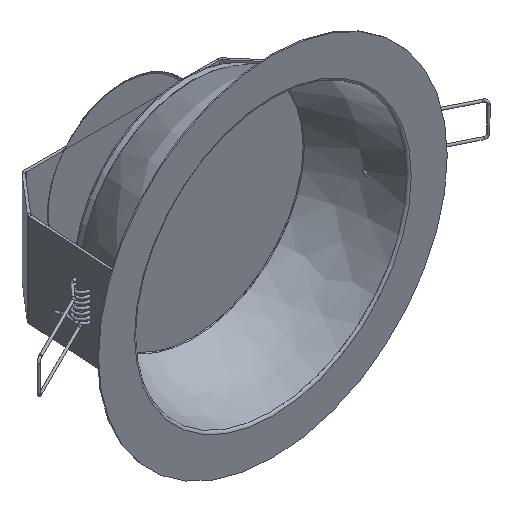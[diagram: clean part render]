
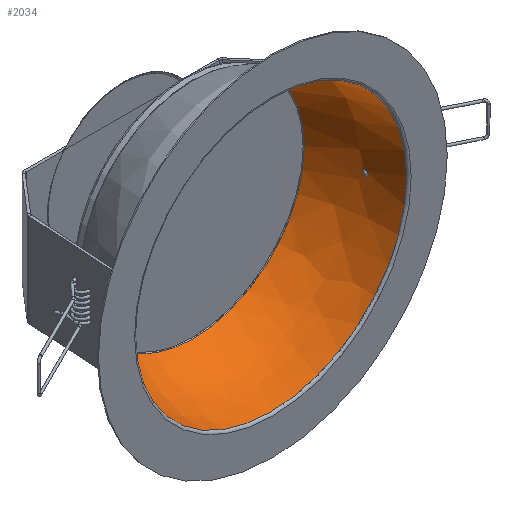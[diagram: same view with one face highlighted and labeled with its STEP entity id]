
A CAD part, isometric view. The second image highlights one B-rep face of the part: STEP entity #2034.
In plain terms, the highlighted free-form (B-spline) face has degree [2, 2] with [3, 9] control points.
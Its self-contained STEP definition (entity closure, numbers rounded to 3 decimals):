
#77=FACE_BOUND('',#559,.T.);
#228=CIRCLE('',#2208,47.779);
#230=CIRCLE('',#2210,60.);
#231=CIRCLE('',#2211,58.492);
#245=(
BOUNDED_SURFACE()
B_SPLINE_SURFACE(2,2,((#9001,#9002,#9003,#9004,#9005,#9006,#9007,#9008,
#9009),(#9010,#9011,#9012,#9013,#9014,#9015,#9016,#9017,#9018),(#9019,#9020,
#9021,#9022,#9023,#9024,#9025,#9026,#9027)),.UNSPECIFIED.,.F.,.T.,.F.)
B_SPLINE_SURFACE_WITH_KNOTS((3,3),(3,2,2,2,3),(0.016,0.607),
(-3.142,-1.571,0.,1.571,3.142),
 .UNSPECIFIED.)
GEOMETRIC_REPRESENTATION_ITEM()
RATIONAL_B_SPLINE_SURFACE(((1.,0.707,1.,0.707,1.,
0.707,1.,0.707,1.),(0.957,0.676,
0.957,0.676,0.957,0.676,
0.957,0.676,0.957),(1.,0.707,
1.,0.707,1.,0.707,1.,0.707,1.)))
REPRESENTATION_ITEM('')
SURFACE()
);
#370=FACE_OUTER_BOUND('',#558,.T.);
#558=EDGE_LOOP('',(#1857,#1858,#1859,#1860));
#559=EDGE_LOOP('',(#1861,#1862));
#739=B_SPLINE_CURVE_WITH_KNOTS('',3,(#2897,#2898,#2899,#2900,#2901,#2902,
#2903,#2904,#2905,#2906,#2907,#2908,#2909,#2910,#2911,#2912,#2913,#2914,
#2915,#2916,#2917,#2918,#2919,#2920,#2921,#2922),.UNSPECIFIED.,.F.,.F.,
(4,2,2,2,2,2,2,2,2,2,2,2,4),(-0.256,-0.239,-0.213,
-0.183,-0.159,-0.143,-0.127,
-0.111,-0.089,-0.065,-0.043,
-0.023,-0.018),.UNSPECIFIED.);
#793=B_SPLINE_CURVE_WITH_KNOTS('',3,(#5666,#5667,#5668,#5669,#5670,#5671,
#5672,#5673,#5674,#5675,#5676,#5677,#5678,#5679,#5680,#5681,#5682,#5683,
#5684,#5685),.UNSPECIFIED.,.F.,.F.,(4,2,2,2,2,2,2,2,2,4),(0.03,
0.043,0.076,0.104,0.129,
0.151,0.173,0.199,0.231,
0.265),.UNSPECIFIED.);
#857=VERTEX_POINT('',#2894);
#858=VERTEX_POINT('',#2896);
#1014=VERTEX_POINT('',#8998);
#1015=VERTEX_POINT('',#9028);
#1026=EDGE_CURVE('',#858,#857,#739,.T.);
#1099=EDGE_CURVE('',#857,#858,#793,.T.);
#1295=EDGE_CURVE('',#1014,#1014,#228,.T.);
#1297=EDGE_CURVE('',#1014,#1015,#230,.T.);
#1298=EDGE_CURVE('',#1015,#1015,#231,.T.);
#1857=ORIENTED_EDGE('',*,*,#1295,.T.);
#1858=ORIENTED_EDGE('',*,*,#1297,.T.);
#1859=ORIENTED_EDGE('',*,*,#1298,.F.);
#1860=ORIENTED_EDGE('',*,*,#1297,.F.);
#1861=ORIENTED_EDGE('',*,*,#1026,.T.);
#1862=ORIENTED_EDGE('',*,*,#1099,.T.);
#2034=ADVANCED_FACE('',(#370,#77),#245,.T.);
#2208=AXIS2_PLACEMENT_3D('',#8999,#2600,#2601);
#2210=AXIS2_PLACEMENT_3D('',#9029,#2604,#2605);
#2211=AXIS2_PLACEMENT_3D('',#9030,#2606,#2607);
#2600=DIRECTION('center_axis',(0.,1.,0.));
#2601=DIRECTION('ref_axis',(0.866,0.,-0.5));
#2604=DIRECTION('center_axis',(-0.866,0.,0.5));
#2605=DIRECTION('ref_axis',(-0.5,0.,-0.866));
#2606=DIRECTION('center_axis',(0.,1.,0.));
#2607=DIRECTION('ref_axis',(0.866,0.,-0.5));
#2894=CARTESIAN_POINT('',(55.93,-48.87,-5.007));
#2896=CARTESIAN_POINT('',(56.023,-48.916,-4.023));
#2897=CARTESIAN_POINT('Ctrl Pts',(56.023,-48.916,-4.023));
#2898=CARTESIAN_POINT('Ctrl Pts',(56.037,-48.965,-4.021));
#2899=CARTESIAN_POINT('Ctrl Pts',(56.051,-49.015,-4.024));
#2900=CARTESIAN_POINT('Ctrl Pts',(56.085,-49.137,-4.039));
#2901=CARTESIAN_POINT('Ctrl Pts',(56.104,-49.21,-4.055));
#2902=CARTESIAN_POINT('Ctrl Pts',(56.143,-49.361,-4.109));
#2903=CARTESIAN_POINT('Ctrl Pts',(56.162,-49.439,-4.149));
#2904=CARTESIAN_POINT('Ctrl Pts',(56.188,-49.56,-4.242));
#2905=CARTESIAN_POINT('Ctrl Pts',(56.198,-49.608,-4.29));
#2906=CARTESIAN_POINT('Ctrl Pts',(56.207,-49.67,-4.387));
#2907=CARTESIAN_POINT('Ctrl Pts',(56.209,-49.69,-4.432));
#2908=CARTESIAN_POINT('Ctrl Pts',(56.208,-49.711,-4.523));
#2909=CARTESIAN_POINT('Ctrl Pts',(56.205,-49.713,-4.567));
#2910=CARTESIAN_POINT('Ctrl Pts',(56.194,-49.699,-4.657));
#2911=CARTESIAN_POINT('Ctrl Pts',(56.185,-49.682,-4.702));
#2912=CARTESIAN_POINT('Ctrl Pts',(56.162,-49.627,-4.794));
#2913=CARTESIAN_POINT('Ctrl Pts',(56.146,-49.583,-4.841));
#2914=CARTESIAN_POINT('Ctrl Pts',(56.106,-49.465,-4.927));
#2915=CARTESIAN_POINT('Ctrl Pts',(56.083,-49.393,-4.96));
#2916=CARTESIAN_POINT('Ctrl Pts',(56.04,-49.253,-5.003));
#2917=CARTESIAN_POINT('Ctrl Pts',(56.019,-49.184,-5.015));
#2918=CARTESIAN_POINT('Ctrl Pts',(55.98,-49.048,-5.025));
#2919=CARTESIAN_POINT('Ctrl Pts',(55.961,-48.981,-5.023));
#2920=CARTESIAN_POINT('Ctrl Pts',(55.938,-48.899,-5.012));
#2921=CARTESIAN_POINT('Ctrl Pts',(55.934,-48.885,-5.01));
#2922=CARTESIAN_POINT('Ctrl Pts',(55.93,-48.87,-5.007));
#5666=CARTESIAN_POINT('Ctrl Pts',(55.93,-48.87,-5.007));
#5667=CARTESIAN_POINT('Ctrl Pts',(55.919,-48.831,-5.001));
#5668=CARTESIAN_POINT('Ctrl Pts',(55.909,-48.793,-4.992));
#5669=CARTESIAN_POINT('Ctrl Pts',(55.874,-48.661,-4.951));
#5670=CARTESIAN_POINT('Ctrl Pts',(55.854,-48.579,-4.909));
#5671=CARTESIAN_POINT('Ctrl Pts',(55.826,-48.455,-4.81));
#5672=CARTESIAN_POINT('Ctrl Pts',(55.817,-48.41,-4.759));
#5673=CARTESIAN_POINT('Ctrl Pts',(55.808,-48.35,-4.655));
#5674=CARTESIAN_POINT('Ctrl Pts',(55.806,-48.331,-4.603));
#5675=CARTESIAN_POINT('Ctrl Pts',(55.81,-48.315,-4.498));
#5676=CARTESIAN_POINT('Ctrl Pts',(55.815,-48.317,-4.447));
#5677=CARTESIAN_POINT('Ctrl Pts',(55.829,-48.34,-4.349));
#5678=CARTESIAN_POINT('Ctrl Pts',(55.839,-48.361,-4.304));
#5679=CARTESIAN_POINT('Ctrl Pts',(55.863,-48.42,-4.217));
#5680=CARTESIAN_POINT('Ctrl Pts',(55.878,-48.46,-4.178));
#5681=CARTESIAN_POINT('Ctrl Pts',(55.914,-48.563,-4.104));
#5682=CARTESIAN_POINT('Ctrl Pts',(55.936,-48.629,-4.075));
#5683=CARTESIAN_POINT('Ctrl Pts',(55.979,-48.768,-4.035));
#5684=CARTESIAN_POINT('Ctrl Pts',(56.001,-48.842,-4.024));
#5685=CARTESIAN_POINT('Ctrl Pts',(56.023,-48.916,-4.023));
#8998=CARTESIAN_POINT('',(-23.889,-31.256,-41.378));
#8999=CARTESIAN_POINT('Origin',(0.,-31.256,
0.));
#9001=CARTESIAN_POINT('Ctrl Pts',(-29.246,-64.516,-50.656));
#9002=CARTESIAN_POINT('Ctrl Pts',(-79.902,-64.516,-21.41));
#9003=CARTESIAN_POINT('Ctrl Pts',(-50.656,-64.516,29.246));
#9004=CARTESIAN_POINT('Ctrl Pts',(-21.41,-64.516,79.902));
#9005=CARTESIAN_POINT('Ctrl Pts',(29.246,-64.516,50.656));
#9006=CARTESIAN_POINT('Ctrl Pts',(79.902,-64.516,21.41));
#9007=CARTESIAN_POINT('Ctrl Pts',(50.656,-64.516,-29.246));
#9008=CARTESIAN_POINT('Ctrl Pts',(21.41,-64.516,-79.902));
#9009=CARTESIAN_POINT('Ctrl Pts',(-29.246,-64.516,-50.656));
#9010=CARTESIAN_POINT('Ctrl Pts',(-29.099,-46.255,-50.4));
#9011=CARTESIAN_POINT('Ctrl Pts',(-79.499,-46.255,-21.302));
#9012=CARTESIAN_POINT('Ctrl Pts',(-50.4,-46.255,29.099));
#9013=CARTESIAN_POINT('Ctrl Pts',(-21.302,-46.255,79.499));
#9014=CARTESIAN_POINT('Ctrl Pts',(29.099,-46.255,50.4));
#9015=CARTESIAN_POINT('Ctrl Pts',(79.499,-46.255,21.302));
#9016=CARTESIAN_POINT('Ctrl Pts',(50.4,-46.255,-29.099));
#9017=CARTESIAN_POINT('Ctrl Pts',(21.302,-46.255,-79.499));
#9018=CARTESIAN_POINT('Ctrl Pts',(-29.099,-46.255,-50.4));
#9019=CARTESIAN_POINT('Ctrl Pts',(-23.889,-31.256,-41.378));
#9020=CARTESIAN_POINT('Ctrl Pts',(-65.267,-31.256,-17.488));
#9021=CARTESIAN_POINT('Ctrl Pts',(-41.378,-31.256,23.889));
#9022=CARTESIAN_POINT('Ctrl Pts',(-17.488,-31.256,65.267));
#9023=CARTESIAN_POINT('Ctrl Pts',(23.889,-31.256,41.378));
#9024=CARTESIAN_POINT('Ctrl Pts',(65.267,-31.256,17.488));
#9025=CARTESIAN_POINT('Ctrl Pts',(41.378,-31.256,-23.889));
#9026=CARTESIAN_POINT('Ctrl Pts',(17.488,-31.256,-65.267));
#9027=CARTESIAN_POINT('Ctrl Pts',(-23.889,-31.256,-41.378));
#9028=CARTESIAN_POINT('',(-29.246,-64.516,-50.656));
#9029=CARTESIAN_POINT('Origin',(0.75,-65.485,1.299));
#9030=CARTESIAN_POINT('Origin',(0.,-64.516,
0.));
